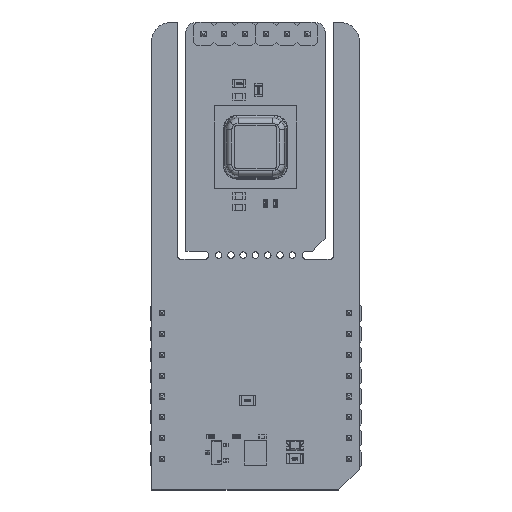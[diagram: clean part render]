
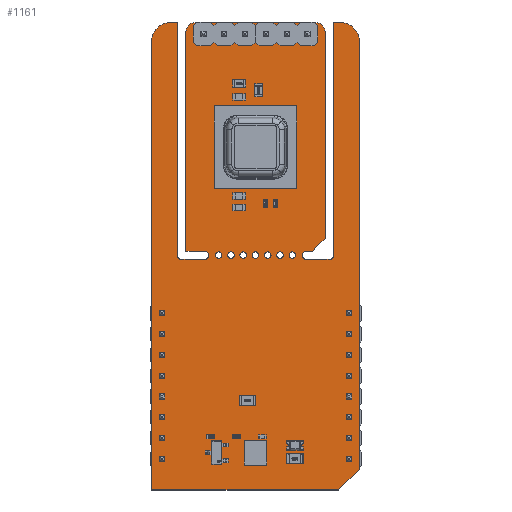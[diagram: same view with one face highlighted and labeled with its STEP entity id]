
A CAD part, top view. The second image highlights one B-rep face of the part: STEP entity #1161.
In plain terms, the highlighted planar face has unit normal (0, 0, 1).
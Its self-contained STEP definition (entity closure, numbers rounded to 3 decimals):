
#124 = VERTEX_POINT('',#125);
#125 = CARTESIAN_POINT('',(1.905,24.8,1.59));
#131 = EDGE_CURVE('',#124,#132,#134,.T.);
#132 = VERTEX_POINT('',#133);
#133 = CARTESIAN_POINT('',(2.305,24.4,1.59));
#134 = CIRCLE('',#135,0.399);
#135 = AXIS2_PLACEMENT_3D('',#136,#137,#138);
#136 = CARTESIAN_POINT('',(2.304,24.799,1.59));
#137 = DIRECTION('',(0.,0.,1.));
#138 = DIRECTION('',(-1.,0.001,0.));
#164 = EDGE_CURVE('',#132,#165,#167,.T.);
#165 = VERTEX_POINT('',#166);
#166 = CARTESIAN_POINT('',(5.23,24.4,1.59));
#167 = LINE('',#168,#169);
#168 = CARTESIAN_POINT('',(2.305,24.4,1.59));
#169 = VECTOR('',#170,1.);
#170 = DIRECTION('',(1.,0.,0.));
#195 = EDGE_CURVE('',#165,#196,#198,.T.);
#196 = VERTEX_POINT('',#197);
#197 = CARTESIAN_POINT('',(5.23,25.4,1.59));
#198 = CIRCLE('',#199,0.5);
#199 = AXIS2_PLACEMENT_3D('',#200,#201,#202);
#200 = CARTESIAN_POINT('',(5.23,24.9,1.59));
#201 = DIRECTION('',(0.,0.,1.));
#202 = DIRECTION('',(-0.,-1.,0.));
#228 = EDGE_CURVE('',#196,#229,#231,.T.);
#229 = VERTEX_POINT('',#230);
#230 = CARTESIAN_POINT('',(2.921,25.4,1.59));
#231 = LINE('',#232,#233);
#232 = CARTESIAN_POINT('',(5.23,25.4,1.59));
#233 = VECTOR('',#234,1.);
#234 = DIRECTION('',(-1.,0.,0.));
#259 = EDGE_CURVE('',#229,#260,#262,.T.);
#260 = VERTEX_POINT('',#261);
#261 = CARTESIAN_POINT('',(2.921,52.197,1.59));
#262 = LINE('',#263,#264);
#263 = CARTESIAN_POINT('',(2.921,25.4,1.59));
#264 = VECTOR('',#265,1.);
#265 = DIRECTION('',(0.,1.,0.));
#290 = EDGE_CURVE('',#260,#291,#293,.T.);
#291 = VERTEX_POINT('',#292);
#292 = CARTESIAN_POINT('',(4.064,53.34,1.59));
#293 = CIRCLE('',#294,1.144);
#294 = AXIS2_PLACEMENT_3D('',#295,#296,#297);
#295 = CARTESIAN_POINT('',(4.065,52.196,1.59));
#296 = DIRECTION('',(0.,0.,-1.));
#297 = DIRECTION('',(-1.,0.001,0.));
#323 = EDGE_CURVE('',#291,#324,#326,.T.);
#324 = VERTEX_POINT('',#325);
#325 = CARTESIAN_POINT('',(18.796,53.34,1.59));
#326 = LINE('',#327,#328);
#327 = CARTESIAN_POINT('',(4.064,53.34,1.59));
#328 = VECTOR('',#329,1.);
#329 = DIRECTION('',(1.,0.,0.));
#354 = EDGE_CURVE('',#324,#355,#357,.T.);
#355 = VERTEX_POINT('',#356);
#356 = CARTESIAN_POINT('',(19.939,52.197,1.59));
#357 = CIRCLE('',#358,1.144);
#358 = AXIS2_PLACEMENT_3D('',#359,#360,#361);
#359 = CARTESIAN_POINT('',(18.795,52.196,1.59));
#360 = DIRECTION('',(0.,0.,-1.));
#361 = DIRECTION('',(0.001,1.,0.));
#387 = EDGE_CURVE('',#355,#388,#390,.T.);
#388 = VERTEX_POINT('',#389);
#389 = CARTESIAN_POINT('',(19.939,26.924,1.59));
#390 = LINE('',#391,#392);
#391 = CARTESIAN_POINT('',(19.939,52.197,1.59));
#392 = VECTOR('',#393,1.);
#393 = DIRECTION('',(0.,-1.,0.));
#418 = EDGE_CURVE('',#388,#419,#421,.T.);
#419 = VERTEX_POINT('',#420);
#420 = CARTESIAN_POINT('',(18.415,25.4,1.59));
#421 = LINE('',#422,#423);
#422 = CARTESIAN_POINT('',(19.939,26.924,1.59));
#423 = VECTOR('',#424,1.);
#424 = DIRECTION('',(-0.707,-0.707,0.));
#449 = EDGE_CURVE('',#419,#450,#452,.T.);
#450 = VERTEX_POINT('',#451);
#451 = CARTESIAN_POINT('',(17.63,25.4,1.59));
#452 = LINE('',#453,#454);
#453 = CARTESIAN_POINT('',(18.415,25.4,1.59));
#454 = VECTOR('',#455,1.);
#455 = DIRECTION('',(-1.,0.,0.));
#480 = EDGE_CURVE('',#450,#481,#483,.T.);
#481 = VERTEX_POINT('',#482);
#482 = CARTESIAN_POINT('',(17.63,24.4,1.59));
#483 = CIRCLE('',#484,0.5);
#484 = AXIS2_PLACEMENT_3D('',#485,#486,#487);
#485 = CARTESIAN_POINT('',(17.63,24.9,1.59));
#486 = DIRECTION('',(0.,-0.,1.));
#487 = DIRECTION('',(0.,1.,0.));
#513 = EDGE_CURVE('',#481,#514,#516,.T.);
#514 = VERTEX_POINT('',#515);
#515 = CARTESIAN_POINT('',(20.555,24.4,1.59));
#516 = LINE('',#517,#518);
#517 = CARTESIAN_POINT('',(17.63,24.4,1.59));
#518 = VECTOR('',#519,1.);
#519 = DIRECTION('',(1.,0.,0.));
#544 = EDGE_CURVE('',#514,#545,#547,.T.);
#545 = VERTEX_POINT('',#546);
#546 = CARTESIAN_POINT('',(20.955,24.8,1.59));
#547 = CIRCLE('',#548,0.399);
#548 = AXIS2_PLACEMENT_3D('',#549,#550,#551);
#549 = CARTESIAN_POINT('',(20.556,24.799,1.59));
#550 = DIRECTION('',(0.,0.,1.));
#551 = DIRECTION('',(-0.001,-1.,0.));
#577 = EDGE_CURVE('',#545,#578,#580,.T.);
#578 = VERTEX_POINT('',#579);
#579 = CARTESIAN_POINT('',(20.955,53.34,1.59));
#580 = LINE('',#581,#582);
#581 = CARTESIAN_POINT('',(20.955,24.8,1.59));
#582 = VECTOR('',#583,1.);
#583 = DIRECTION('',(0.,1.,0.));
#608 = EDGE_CURVE('',#578,#609,#611,.T.);
#609 = VERTEX_POINT('',#610);
#610 = CARTESIAN_POINT('',(21.844,53.34,1.59));
#611 = LINE('',#612,#613);
#612 = CARTESIAN_POINT('',(20.955,53.34,1.59));
#613 = VECTOR('',#614,1.);
#614 = DIRECTION('',(1.,0.,0.));
#639 = EDGE_CURVE('',#609,#640,#642,.T.);
#640 = VERTEX_POINT('',#641);
#641 = CARTESIAN_POINT('',(24.13,51.054,1.59));
#642 = CIRCLE('',#643,2.288);
#643 = AXIS2_PLACEMENT_3D('',#644,#645,#646);
#644 = CARTESIAN_POINT('',(21.842,51.052,1.59));
#645 = DIRECTION('',(0.,0.,-1.));
#646 = DIRECTION('',(0.001,1.,0.));
#672 = EDGE_CURVE('',#640,#673,#675,.T.);
#673 = VERTEX_POINT('',#674);
#674 = CARTESIAN_POINT('',(24.13,-1.27,1.59));
#675 = LINE('',#676,#677);
#676 = CARTESIAN_POINT('',(24.13,51.054,1.59));
#677 = VECTOR('',#678,1.);
#678 = DIRECTION('',(0.,-1.,0.));
#703 = EDGE_CURVE('',#673,#704,#706,.T.);
#704 = VERTEX_POINT('',#705);
#705 = CARTESIAN_POINT('',(21.59,-3.81,1.59));
#706 = LINE('',#707,#708);
#707 = CARTESIAN_POINT('',(24.13,-1.27,1.59));
#708 = VECTOR('',#709,1.);
#709 = DIRECTION('',(-0.707,-0.707,0.));
#734 = EDGE_CURVE('',#704,#735,#737,.T.);
#735 = VERTEX_POINT('',#736);
#736 = CARTESIAN_POINT('',(-1.27,-3.81,1.59));
#737 = LINE('',#738,#739);
#738 = CARTESIAN_POINT('',(21.59,-3.81,1.59));
#739 = VECTOR('',#740,1.);
#740 = DIRECTION('',(-1.,0.,0.));
#765 = EDGE_CURVE('',#735,#766,#768,.T.);
#766 = VERTEX_POINT('',#767);
#767 = CARTESIAN_POINT('',(-1.27,51.054,1.59));
#768 = LINE('',#769,#770);
#769 = CARTESIAN_POINT('',(-1.27,-3.81,1.59));
#770 = VECTOR('',#771,1.);
#771 = DIRECTION('',(0.,1.,0.));
#796 = EDGE_CURVE('',#766,#797,#799,.T.);
#797 = VERTEX_POINT('',#798);
#798 = CARTESIAN_POINT('',(1.016,53.34,1.59));
#799 = CIRCLE('',#800,2.288);
#800 = AXIS2_PLACEMENT_3D('',#801,#802,#803);
#801 = CARTESIAN_POINT('',(1.018,51.052,1.59));
#802 = DIRECTION('',(0.,0.,-1.));
#803 = DIRECTION('',(-1.,0.001,0.));
#829 = EDGE_CURVE('',#797,#830,#832,.T.);
#830 = VERTEX_POINT('',#831);
#831 = CARTESIAN_POINT('',(1.905,53.34,1.59));
#832 = LINE('',#833,#834);
#833 = CARTESIAN_POINT('',(1.016,53.34,1.59));
#834 = VECTOR('',#835,1.);
#835 = DIRECTION('',(1.,0.,0.));
#860 = EDGE_CURVE('',#830,#124,#861,.T.);
#861 = LINE('',#862,#863);
#862 = CARTESIAN_POINT('',(1.905,53.34,1.59));
#863 = VECTOR('',#864,1.);
#864 = DIRECTION('',(0.,-1.,0.));
#884 = VERTEX_POINT('',#885);
#885 = CARTESIAN_POINT('',(7.33,24.9,1.59));
#891 = EDGE_CURVE('',#884,#884,#892,.T.);
#892 = CIRCLE('',#893,0.4);
#893 = AXIS2_PLACEMENT_3D('',#894,#895,#896);
#894 = CARTESIAN_POINT('',(6.93,24.9,1.59));
#895 = DIRECTION('',(0.,0.,1.));
#896 = DIRECTION('',(1.,0.,-0.));
#917 = VERTEX_POINT('',#918);
#918 = CARTESIAN_POINT('',(8.83,24.9,1.59));
#924 = EDGE_CURVE('',#917,#917,#925,.T.);
#925 = CIRCLE('',#926,0.4);
#926 = AXIS2_PLACEMENT_3D('',#927,#928,#929);
#927 = CARTESIAN_POINT('',(8.43,24.9,1.59));
#928 = DIRECTION('',(0.,0.,1.));
#929 = DIRECTION('',(1.,0.,-0.));
#950 = VERTEX_POINT('',#951);
#951 = CARTESIAN_POINT('',(10.33,24.9,1.59));
#957 = EDGE_CURVE('',#950,#950,#958,.T.);
#958 = CIRCLE('',#959,0.4);
#959 = AXIS2_PLACEMENT_3D('',#960,#961,#962);
#960 = CARTESIAN_POINT('',(9.93,24.9,1.59));
#961 = DIRECTION('',(0.,0.,1.));
#962 = DIRECTION('',(1.,0.,-0.));
#983 = VERTEX_POINT('',#984);
#984 = CARTESIAN_POINT('',(14.83,24.9,1.59));
#990 = EDGE_CURVE('',#983,#983,#991,.T.);
#991 = CIRCLE('',#992,0.4);
#992 = AXIS2_PLACEMENT_3D('',#993,#994,#995);
#993 = CARTESIAN_POINT('',(14.43,24.9,1.59));
#994 = DIRECTION('',(0.,0.,1.));
#995 = DIRECTION('',(1.,0.,-0.));
#1016 = VERTEX_POINT('',#1017);
#1017 = CARTESIAN_POINT('',(16.33,24.9,1.59));
#1023 = EDGE_CURVE('',#1016,#1016,#1024,.T.);
#1024 = CIRCLE('',#1025,0.4);
#1025 = AXIS2_PLACEMENT_3D('',#1026,#1027,#1028);
#1026 = CARTESIAN_POINT('',(15.93,24.9,1.59));
#1027 = DIRECTION('',(0.,0.,1.));
#1028 = DIRECTION('',(1.,0.,-0.));
#1049 = VERTEX_POINT('',#1050);
#1050 = CARTESIAN_POINT('',(11.83,24.9,1.59));
#1056 = EDGE_CURVE('',#1049,#1049,#1057,.T.);
#1057 = CIRCLE('',#1058,0.4);
#1058 = AXIS2_PLACEMENT_3D('',#1059,#1060,#1061);
#1059 = CARTESIAN_POINT('',(11.43,24.9,1.59));
#1060 = DIRECTION('',(0.,0.,1.));
#1061 = DIRECTION('',(1.,0.,-0.));
#1082 = VERTEX_POINT('',#1083);
#1083 = CARTESIAN_POINT('',(13.33,24.9,1.59));
#1089 = EDGE_CURVE('',#1082,#1082,#1090,.T.);
#1090 = CIRCLE('',#1091,0.4);
#1091 = AXIS2_PLACEMENT_3D('',#1092,#1093,#1094);
#1092 = CARTESIAN_POINT('',(12.93,24.9,1.59));
#1093 = DIRECTION('',(0.,0.,1.));
#1094 = DIRECTION('',(1.,0.,-0.));
#1161 = ADVANCED_FACE('',(#1162,#1188,#1191,#1194,#1197,#1200,#1203,
    #1206),#1209,.F.);
#1162 = FACE_BOUND('',#1163,.F.);
#1163 = EDGE_LOOP('',(#1164,#1165,#1166,#1167,#1168,#1169,#1170,#1171,
    #1172,#1173,#1174,#1175,#1176,#1177,#1178,#1179,#1180,#1181,#1182,
    #1183,#1184,#1185,#1186,#1187));
#1164 = ORIENTED_EDGE('',*,*,#131,.T.);
#1165 = ORIENTED_EDGE('',*,*,#164,.T.);
#1166 = ORIENTED_EDGE('',*,*,#195,.T.);
#1167 = ORIENTED_EDGE('',*,*,#228,.T.);
#1168 = ORIENTED_EDGE('',*,*,#259,.T.);
#1169 = ORIENTED_EDGE('',*,*,#290,.T.);
#1170 = ORIENTED_EDGE('',*,*,#323,.T.);
#1171 = ORIENTED_EDGE('',*,*,#354,.T.);
#1172 = ORIENTED_EDGE('',*,*,#387,.T.);
#1173 = ORIENTED_EDGE('',*,*,#418,.T.);
#1174 = ORIENTED_EDGE('',*,*,#449,.T.);
#1175 = ORIENTED_EDGE('',*,*,#480,.T.);
#1176 = ORIENTED_EDGE('',*,*,#513,.T.);
#1177 = ORIENTED_EDGE('',*,*,#544,.T.);
#1178 = ORIENTED_EDGE('',*,*,#577,.T.);
#1179 = ORIENTED_EDGE('',*,*,#608,.T.);
#1180 = ORIENTED_EDGE('',*,*,#639,.T.);
#1181 = ORIENTED_EDGE('',*,*,#672,.T.);
#1182 = ORIENTED_EDGE('',*,*,#703,.T.);
#1183 = ORIENTED_EDGE('',*,*,#734,.T.);
#1184 = ORIENTED_EDGE('',*,*,#765,.T.);
#1185 = ORIENTED_EDGE('',*,*,#796,.T.);
#1186 = ORIENTED_EDGE('',*,*,#829,.T.);
#1187 = ORIENTED_EDGE('',*,*,#860,.T.);
#1188 = FACE_BOUND('',#1189,.F.);
#1189 = EDGE_LOOP('',(#1190));
#1190 = ORIENTED_EDGE('',*,*,#891,.T.);
#1191 = FACE_BOUND('',#1192,.F.);
#1192 = EDGE_LOOP('',(#1193));
#1193 = ORIENTED_EDGE('',*,*,#924,.T.);
#1194 = FACE_BOUND('',#1195,.F.);
#1195 = EDGE_LOOP('',(#1196));
#1196 = ORIENTED_EDGE('',*,*,#957,.T.);
#1197 = FACE_BOUND('',#1198,.F.);
#1198 = EDGE_LOOP('',(#1199));
#1199 = ORIENTED_EDGE('',*,*,#990,.T.);
#1200 = FACE_BOUND('',#1201,.F.);
#1201 = EDGE_LOOP('',(#1202));
#1202 = ORIENTED_EDGE('',*,*,#1023,.T.);
#1203 = FACE_BOUND('',#1204,.F.);
#1204 = EDGE_LOOP('',(#1205));
#1205 = ORIENTED_EDGE('',*,*,#1056,.T.);
#1206 = FACE_BOUND('',#1207,.F.);
#1207 = EDGE_LOOP('',(#1208));
#1208 = ORIENTED_EDGE('',*,*,#1089,.T.);
#1209 = PLANE('',#1210);
#1210 = AXIS2_PLACEMENT_3D('',#1211,#1212,#1213);
#1211 = CARTESIAN_POINT('',(11.331,30.13,1.59));
#1212 = DIRECTION('',(-0.,-0.,-1.));
#1213 = DIRECTION('',(-1.,0.,0.));
